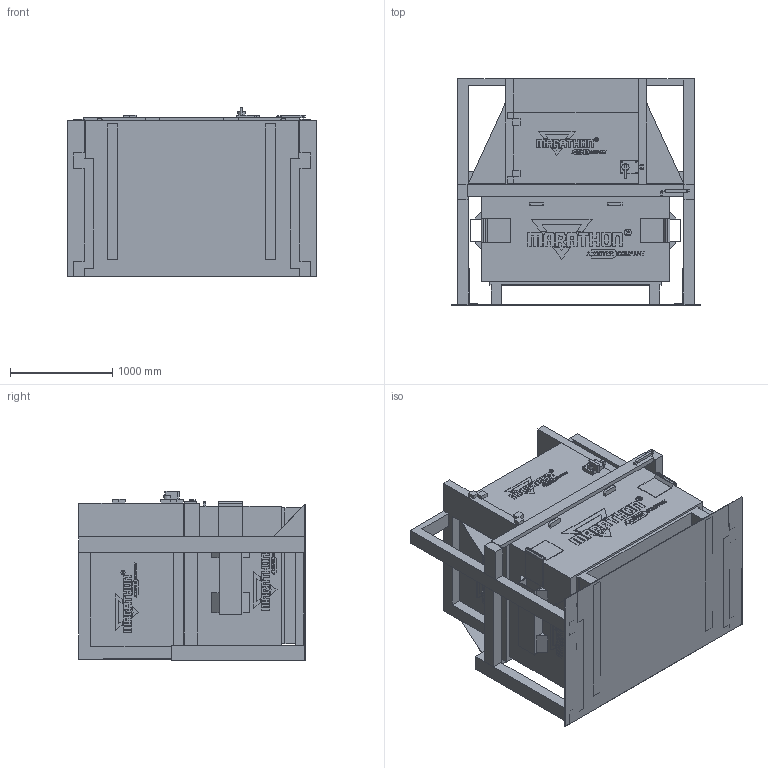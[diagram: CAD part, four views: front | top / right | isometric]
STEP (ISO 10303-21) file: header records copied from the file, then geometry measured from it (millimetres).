
FILE_DESCRIPTION((''),'2;1');
FILE_NAME('ASSEMBLY_50382B_ASM','2018-10-23T20:37:30',('10066402'),('HEIL Environmental Industries, Ltd.'),'CREO PARAMETRIC BY PTC INC, 2017110','CREO PARAMETRIC BY PTC INC, 2017110','');
FILE_SCHEMA(('CONFIG_CONTROL_DESIGN'));
Length unit declared in the file: inch
Products named in the file (3): COMPACTOR_50382B; CONTAINER_50382B; ASSEMBLY_50382B_ASM
Assembly tree (2 placements, depth 2):
  ASSEMBLY_50382B_ASM
    COMPACTOR_50382B
    CONTAINER_50382B
Bounding box: 2438.4 x 2209.8 x 1651.95 mm (x, y, z)
Volume: 4509045562.7 mm3; surface area: 45739253.7 mm2
Topology: 6 solids, 6 shells, 4171 faces, 11522 edges, 7663 vertices
Faces by surface type: plane 3850, cylinder 319, torus 2
Entity records: 130747 total; most frequent: CARTESIAN_POINT 23364, ORIENTED_EDGE 23044, DIRECTION 20513, EDGE_CURVE 11522, VECTOR 10881, LINE 10881, VERTEX_POINT 7663, AXIS2_PLACEMENT_3D 4816
